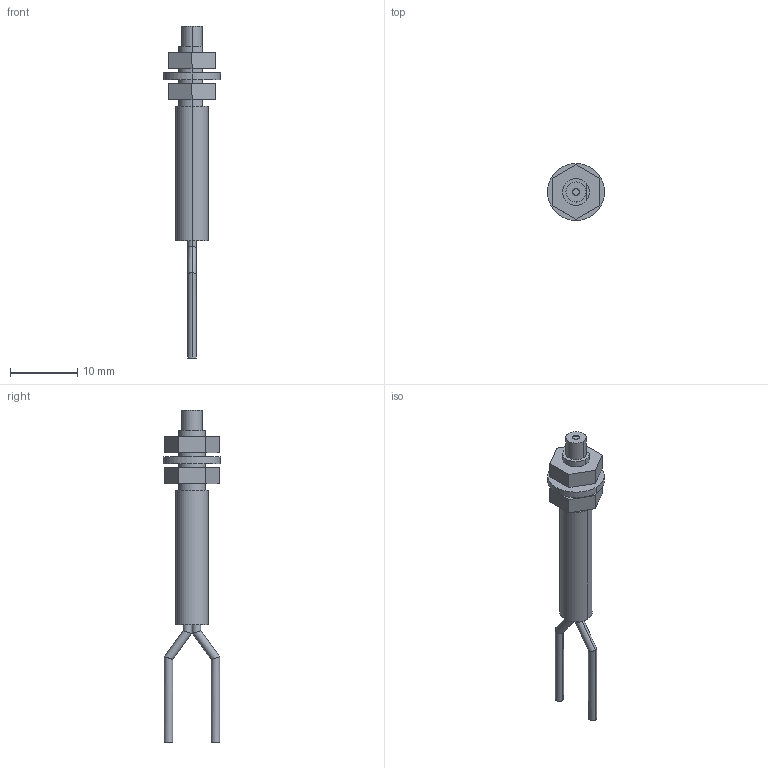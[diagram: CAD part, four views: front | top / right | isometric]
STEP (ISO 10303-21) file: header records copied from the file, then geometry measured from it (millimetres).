
FILE_DESCRIPTION (( 'STEP AP203' ), '1' );
FILE_NAME ('FD-P60.STEP', '2005-09-04T10:14:17', ( '川島良英' ), ( ' ' ), 'SwSTEP 2.0', 'SolidWorks 2004251', '' );
FILE_SCHEMA (( 'CONFIG_CONTROL_DESIGN' ));
Length unit declared in the file: millimetre
Products named in the file (1): FD-P60
Bounding box: 8.5 x 8.5 x 49.5 mm (x, y, z)
Volume: 720.7 mm3; surface area: 1045.7 mm2
Topology: 4 solids, 4 shells, 55 faces, 120 edges, 77 vertices
Faces by surface type: cylinder 29, plane 26
Entity records: 1588 total; most frequent: CARTESIAN_POINT 277, DIRECTION 267, ORIENTED_EDGE 240, EDGE_CURVE 120, AXIS2_PLACEMENT_3D 99, VERTEX_POINT 77, LINE 69, VECTOR 69
